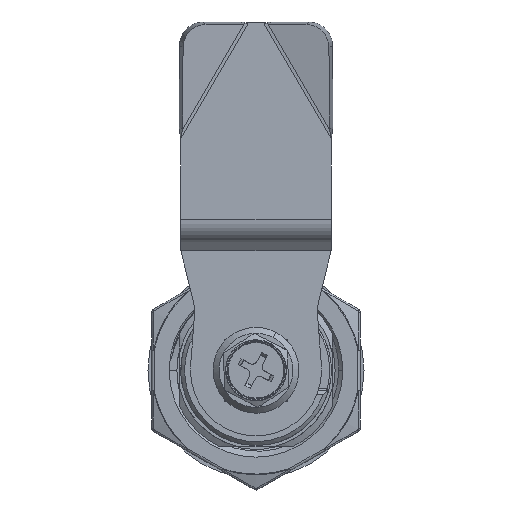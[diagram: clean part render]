
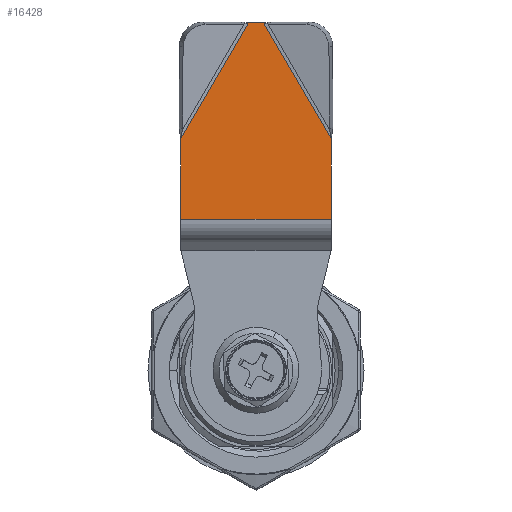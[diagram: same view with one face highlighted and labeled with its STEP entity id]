
A CAD part, front view. The second image highlights one B-rep face of the part: STEP entity #16428.
In plain terms, the highlighted planar face has unit normal (0, -1, 0).
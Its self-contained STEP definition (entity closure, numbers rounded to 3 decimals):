
#1158 = DIRECTION ( 'NONE',  ( 0.864, 0., 0.504 ) ) ;
#2406 = FACE_OUTER_BOUND ( 'NONE', #22388, .T. ) ;
#2511 = LINE ( 'NONE', #19778, #28618 ) ;
#3358 = ORIENTED_EDGE ( 'NONE', *, *, #30503, .T. ) ;
#3476 = VERTEX_POINT ( 'NONE', #47206 ) ;
#7504 = DIRECTION ( 'NONE',  ( 1., 0., 0. ) ) ;
#9943 = LINE ( 'NONE', #31546, #44029 ) ;
#11233 = VERTEX_POINT ( 'NONE', #21376 ) ;
#11893 = CARTESIAN_POINT ( 'NONE',  ( -47.571, -8., 6.75 ) ) ;
#15653 = DIRECTION ( 'NONE',  ( 0., -1., 0. ) ) ;
#16224 = PLANE ( 'NONE',  #45022 ) ;
#16428 = ADVANCED_FACE ( 'NONE', ( #2406 ), #16224, .T. ) ;
#19082 = VERTEX_POINT ( 'NONE', #20045 ) ;
#19694 = VERTEX_POINT ( 'NONE', #35893 ) ;
#19778 = CARTESIAN_POINT ( 'NONE',  ( -24.05, -8., -9.75 ) ) ;
#20045 = CARTESIAN_POINT ( 'NONE',  ( -38.5, -8., -9.75 ) ) ;
#20068 = DIRECTION ( 'NONE',  ( 1., 0., 0. ) ) ;
#20799 = ORIENTED_EDGE ( 'NONE', *, *, #56579, .F. ) ;
#20898 = VERTEX_POINT ( 'NONE', #35114 ) ;
#21170 = CARTESIAN_POINT ( 'NONE',  ( -38.5, -8., 9.75 ) ) ;
#21212 = VERTEX_POINT ( 'NONE', #21170 ) ;
#21376 = CARTESIAN_POINT ( 'NONE',  ( -28.04, -8., -9.75 ) ) ;
#22388 = EDGE_LOOP ( 'NONE', ( #3358, #49089, #49481, #20799, #34636, #28931 ) ) ;
#22611 = DIRECTION ( 'NONE',  ( 0., 0., 1. ) ) ;
#26430 = VECTOR ( 'NONE', #47672, 1000. ) ;
#26924 = EDGE_CURVE ( 'NONE', #20898, #3476, #43000, .T. ) ;
#28618 = VECTOR ( 'NONE', #20068, 1000. ) ;
#28931 = ORIENTED_EDGE ( 'NONE', *, *, #41775, .T. ) ;
#29457 = DIRECTION ( 'NONE',  ( 0., 0., 1. ) ) ;
#29461 = EDGE_CURVE ( 'NONE', #21212, #19694, #46957, .T. ) ;
#30503 = EDGE_CURVE ( 'NONE', #19082, #11233, #2511, .T. ) ;
#31546 = CARTESIAN_POINT ( 'NONE',  ( -28.04, -8., 6.75 ) ) ;
#33487 = CARTESIAN_POINT ( 'NONE',  ( -53.5, -8., -6.75 ) ) ;
#34636 = ORIENTED_EDGE ( 'NONE', *, *, #26924, .F. ) ;
#35114 = CARTESIAN_POINT ( 'NONE',  ( -53.5, -8., -1. ) ) ;
#35893 = CARTESIAN_POINT ( 'NONE',  ( -28.04, -8., 9.75 ) ) ;
#40619 = LINE ( 'NONE', #45220, #51635 ) ;
#41775 = EDGE_CURVE ( 'NONE', #20898, #19082, #52549, .T. ) ;
#43000 = LINE ( 'NONE', #33487, #43520 ) ;
#43520 = VECTOR ( 'NONE', #29457, 1000. ) ;
#44029 = VECTOR ( 'NONE', #22611, 1000. ) ;
#45022 = AXIS2_PLACEMENT_3D ( 'NONE', #11893, #15653, #47006 ) ;
#45220 = CARTESIAN_POINT ( 'NONE',  ( -48.759, -8., 3.766 ) ) ;
#45984 = EDGE_CURVE ( 'NONE', #11233, #19694, #9943, .T. ) ;
#46957 = LINE ( 'NONE', #51551, #50007 ) ;
#47006 = DIRECTION ( 'NONE',  ( 0., 0., -1. ) ) ;
#47206 = CARTESIAN_POINT ( 'NONE',  ( -53.5, -8., 1. ) ) ;
#47672 = DIRECTION ( 'NONE',  ( 0.864, 0., -0.504 ) ) ;
#49089 = ORIENTED_EDGE ( 'NONE', *, *, #45984, .T. ) ;
#49481 = ORIENTED_EDGE ( 'NONE', *, *, #29461, .F. ) ;
#50007 = VECTOR ( 'NONE', #7504, 1000. ) ;
#51551 = CARTESIAN_POINT ( 'NONE',  ( -24.05, -8., 9.75 ) ) ;
#51635 = VECTOR ( 'NONE', #1158, 1000. ) ;
#52549 = LINE ( 'NONE', #56882, #26430 ) ;
#56579 = EDGE_CURVE ( 'NONE', #3476, #21212, #40619, .T. ) ;
#56882 = CARTESIAN_POINT ( 'NONE',  ( -54.635, -8., -0.338 ) ) ;
